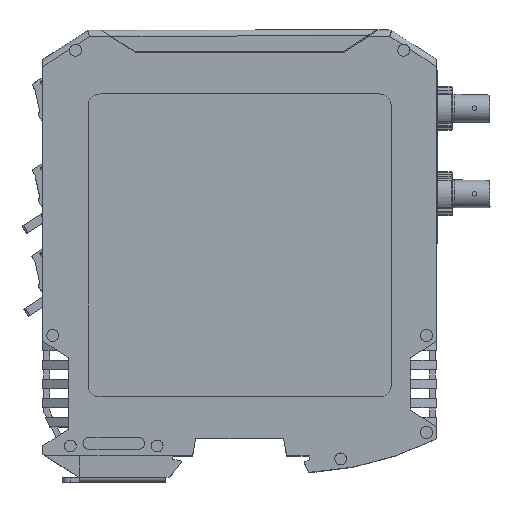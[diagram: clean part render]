
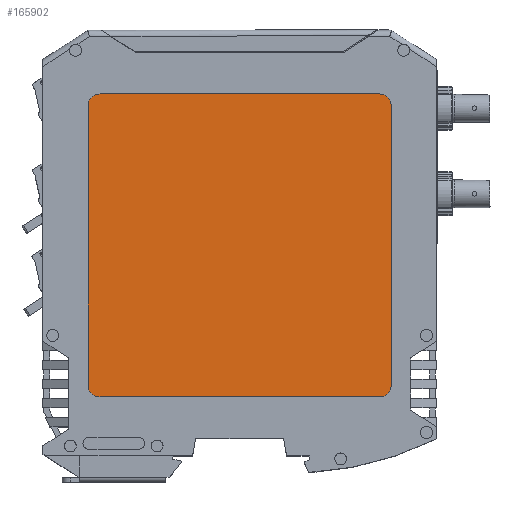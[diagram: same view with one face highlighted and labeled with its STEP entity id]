
A CAD part, top view. The second image highlights one B-rep face of the part: STEP entity #165902.
In plain terms, the highlighted planar face has unit normal (0, 0, 1).
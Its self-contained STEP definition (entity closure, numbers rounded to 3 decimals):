
#1499 = VERTEX_POINT ( 'NONE', #44444 ) ;
#5579 = VECTOR ( 'NONE', #188915, 1000. ) ;
#7255 = EDGE_CURVE ( 'NONE', #135896, #11632, #224271, .T. ) ;
#11632 = VERTEX_POINT ( 'NONE', #108955 ) ;
#15980 = VERTEX_POINT ( 'NONE', #74449 ) ;
#16166 = CARTESIAN_POINT ( 'NONE',  ( -35.1, 25.321, 14.1 ) ) ;
#17660 = AXIS2_PLACEMENT_3D ( 'NONE', #107654, #107617, #107354 ) ;
#18377 = EDGE_CURVE ( 'NONE', #188120, #15980, #203620, .T. ) ;
#19059 = EDGE_CURVE ( 'NONE', #207654, #11632, #25021, .T. ) ;
#24415 = EDGE_CURVE ( 'NONE', #142924, #15980, #93084, .T. ) ;
#25021 = LINE ( 'NONE', #214131, #206103 ) ;
#27763 = EDGE_CURVE ( 'NONE', #207654, #1499, #36935, .T. ) ;
#29665 = ORIENTED_EDGE ( 'NONE', *, *, #93931, .T. ) ;
#33857 = DIRECTION ( 'NONE',  ( -1., 0., 0. ) ) ;
#35743 = DIRECTION ( 'NONE',  ( 0., 0., 1. ) ) ;
#36935 = CIRCLE ( 'NONE', #17660, 3. ) ;
#38231 = CARTESIAN_POINT ( 'NONE',  ( -35.1, 22.321, 14.1 ) ) ;
#38904 = ORIENTED_EDGE ( 'NONE', *, *, #27763, .F. ) ;
#43296 = DIRECTION ( 'NONE',  ( -1., 0., 0. ) ) ;
#43762 = DIRECTION ( 'NONE',  ( 0., 0., -1. ) ) ;
#44054 = CARTESIAN_POINT ( 'NONE',  ( 35.1, 25.321, 14.1 ) ) ;
#44444 = CARTESIAN_POINT ( 'NONE',  ( 38.1, 95.521, 14.1 ) ) ;
#44474 = DIRECTION ( 'NONE',  ( 1., 0., 0. ) ) ;
#44778 = ORIENTED_EDGE ( 'NONE', *, *, #7255, .F. ) ;
#45187 = CARTESIAN_POINT ( 'NONE',  ( -35.1, 22.321, 14.1 ) ) ;
#50056 = LINE ( 'NONE', #215474, #96673 ) ;
#52182 = LINE ( 'NONE', #171291, #5579 ) ;
#55594 = ORIENTED_EDGE ( 'NONE', *, *, #18377, .T. ) ;
#60269 = ORIENTED_EDGE ( 'NONE', *, *, #24415, .F. ) ;
#65303 = FACE_OUTER_BOUND ( 'NONE', #165666, .T. ) ;
#71430 = AXIS2_PLACEMENT_3D ( 'NONE', #140751, #35743, #158311 ) ;
#74449 = CARTESIAN_POINT ( 'NONE',  ( 35.1, 22.321, 14.1 ) ) ;
#92814 = DIRECTION ( 'NONE',  ( 0., 1., 0. ) ) ;
#93084 = CIRCLE ( 'NONE', #132697, 3. ) ;
#93931 = EDGE_CURVE ( 'NONE', #135896, #156158, #52182, .T. ) ;
#95275 = CARTESIAN_POINT ( 'NONE',  ( -38.1, 95.521, 14.1 ) ) ;
#96673 = VECTOR ( 'NONE', #92814, 1000. ) ;
#107354 = DIRECTION ( 'NONE',  ( -1., 0., 0. ) ) ;
#107617 = DIRECTION ( 'NONE',  ( 0., 0., -1. ) ) ;
#107654 = CARTESIAN_POINT ( 'NONE',  ( 35.1, 95.521, 14.1 ) ) ;
#108955 = CARTESIAN_POINT ( 'NONE',  ( -35.1, 98.521, 14.1 ) ) ;
#112368 = ORIENTED_EDGE ( 'NONE', *, *, #19059, .T. ) ;
#113751 = ORIENTED_EDGE ( 'NONE', *, *, #137671, .T. ) ;
#126118 = CARTESIAN_POINT ( 'NONE',  ( 35.1, 98.521, 14.1 ) ) ;
#132697 = AXIS2_PLACEMENT_3D ( 'NONE', #44054, #43762, #43296 ) ;
#135896 = VERTEX_POINT ( 'NONE', #95275 ) ;
#137671 = EDGE_CURVE ( 'NONE', #142924, #1499, #50056, .T. ) ;
#138608 = CARTESIAN_POINT ( 'NONE',  ( -38.1, 25.321, 14.1 ) ) ;
#138857 = DIRECTION ( 'NONE',  ( 0., 0., -1. ) ) ;
#140751 = CARTESIAN_POINT ( 'NONE',  ( -35.1, 95.521, 14.1 ) ) ;
#142924 = VERTEX_POINT ( 'NONE', #185713 ) ;
#147973 = EDGE_CURVE ( 'NONE', #188120, #156158, #176289, .T. ) ;
#151792 = AXIS2_PLACEMENT_3D ( 'NONE', #154108, #153901, #153630 ) ;
#153630 = DIRECTION ( 'NONE',  ( -1., 0., 0. ) ) ;
#153901 = DIRECTION ( 'NONE',  ( 0., 0., -1. ) ) ;
#154108 = CARTESIAN_POINT ( 'NONE',  ( -35.1, 95.521, 14.1 ) ) ;
#156158 = VERTEX_POINT ( 'NONE', #138608 ) ;
#157016 = VECTOR ( 'NONE', #44474, 1000. ) ;
#157568 = PLANE ( 'NONE',  #71430 ) ;
#158311 = DIRECTION ( 'NONE',  ( 1., 0., 0. ) ) ;
#165666 = EDGE_LOOP ( 'NONE', ( #60269, #113751, #38904, #112368, #44778, #29665, #192145, #55594 ) ) ;
#165902 = ADVANCED_FACE ( 'NONE', ( #65303 ), #157568, .T. ) ;
#171291 = CARTESIAN_POINT ( 'NONE',  ( -38.1, 95.521, 14.1 ) ) ;
#176289 = CIRCLE ( 'NONE', #182268, 3. ) ;
#182268 = AXIS2_PLACEMENT_3D ( 'NONE', #16166, #138857, #33857 ) ;
#185713 = CARTESIAN_POINT ( 'NONE',  ( 38.1, 25.321, 14.1 ) ) ;
#188120 = VERTEX_POINT ( 'NONE', #38231 ) ;
#188915 = DIRECTION ( 'NONE',  ( 0., -1., 0. ) ) ;
#192145 = ORIENTED_EDGE ( 'NONE', *, *, #147973, .F. ) ;
#203620 = LINE ( 'NONE', #45187, #157016 ) ;
#206103 = VECTOR ( 'NONE', #213400, 1000. ) ;
#207654 = VERTEX_POINT ( 'NONE', #126118 ) ;
#213400 = DIRECTION ( 'NONE',  ( -1., 0., 0. ) ) ;
#214131 = CARTESIAN_POINT ( 'NONE',  ( -35.1, 98.521, 14.1 ) ) ;
#215474 = CARTESIAN_POINT ( 'NONE',  ( 38.1, 95.521, 14.1 ) ) ;
#224271 = CIRCLE ( 'NONE', #151792, 3. ) ;
